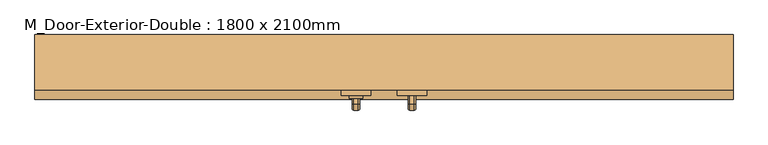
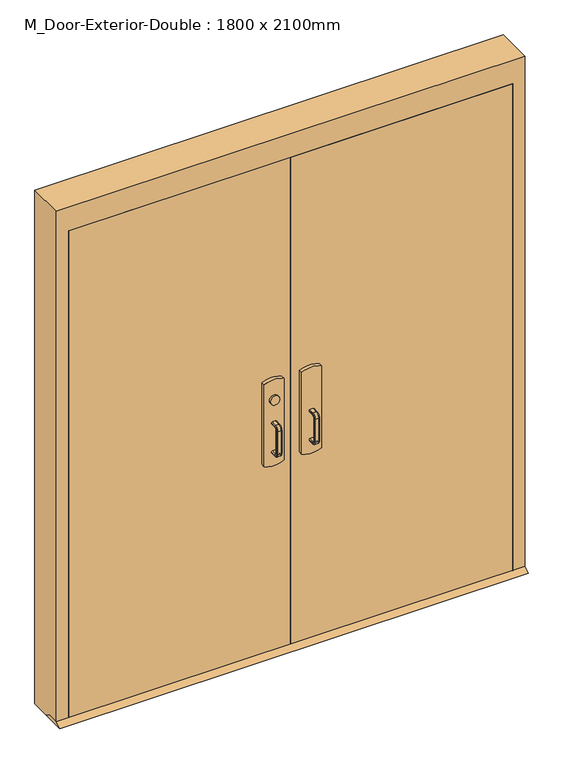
"""IFC4 building model written with IfcOpenShell, lengths in millimetres: door geometry, M_Door-Exterior-Double : 1800 x 2100mm."""

from ifc_helpers import new_model, si_unit, point, frame, frame_2d, origin, place, context, project, spatial, polyline, circle_curve, ellipse_curve, trimmed, segment, composite_curve, outline, extrude, faceted_brep, source, transform, mapped, element, save
from ifc_brep_helpers import plane_surface, cylinder_surface, revolved_surface, advanced_brep


def m_door_exterior_double_1800_x_2100mm_96612cad(model_context):
    return source(origin(), model_context, "Body", "SolidModel", [
        extrude(outline(polyline([(-566.1333333, 56.75), (-76.2, 56.75), (-76.2, 50.4), (-566.1333333, 50.4), (-566.1333333, 56.75)])), frame((0.0, 0.0, 974.6), z_axis=(0.0, 0.0, 1.0), x_axis=(1.0, 0.0, 0.0)), (0.0, 0.0, 1.0), 50.8),
        advanced_brep(
        [(-12.7, 50.4, 1025.4), (-12.7, 50.4, 974.6), (-76.2, 50.4, 974.6), (-811.1, 50.4, 974.6), (-811.1, 50.4, 1025.4), (-76.2, 50.4, 1025.4), (-811.1, 18.65, 1025.4), (-811.1, 18.65, 974.6), (-76.2, 18.65, 974.6), (-76.2, 18.65, 911.1), (-57.15, 18.65, 892.05), (-31.75, 18.65, 892.05), (-12.7, 18.65, 911.1), (-12.7, 18.65, 1088.9), (-31.75, 18.65, 1107.95), (-57.15, 18.65, 1107.95), (-76.2, 18.65, 1088.9), (-76.2, 18.65, 1025.4), (-76.2, 47.2247533, 1025.4), (-12.7, 47.2247533, 1025.4), (-12.7, 42.2145731, 1088.9), (-12.7, 42.2145731, 911.1), (-12.7, 47.2247533, 974.6), (-76.2, 47.2247533, 974.6), (-76.2, 42.2145731, 1088.9), (-76.2, 42.2145731, 911.1), (-31.75, 40.711519, 1107.95), (-57.15, 40.711519, 1107.95), (-57.15, 40.711519, 892.05), (-31.75, 40.711519, 892.05)],
        [
            (0, 1),
            (1, 2),
            (2, 3),
            (3, 4),
            (4, 5),
            (5, 0),
            (6, 7),
            (7, 8),
            (8, 9),
            (9, 10, circle_curve(frame((-57.15, 18.65, 911.1), z_axis=(0.0, -1.0, 0.0), x_axis=(-1.0, 0.0, 0.0)), 19.05)),
            (10, 11),
            (11, 12, circle_curve(frame((-31.75, 18.65, 911.1), z_axis=(0.0, -1.0, 0.0), x_axis=(-1.0, 0.0, 0.0)), 19.05)),
            (12, 13),
            (13, 14, circle_curve(frame((-31.75, 18.65, 1088.9), z_axis=(0.0, -1.0, 0.0), x_axis=(-1.0, 0.0, 0.0)), 19.05)),
            (14, 15),
            (15, 16, circle_curve(frame((-57.15, 18.65, 1088.9), z_axis=(0.0, -1.0, 0.0), x_axis=(-1.0, 0.0, 0.0)), 19.05)),
            (16, 17),
            (17, 6),
            (4, 6),
            (17, 18),
            (18, 19),
            (19, 0),
            (19, 20),
            (20, 13),
            (12, 21),
            (21, 22),
            (22, 1),
            (7, 3),
            (22, 23),
            (23, 8),
            (16, 24),
            (24, 18),
            (23, 25),
            (25, 9),
            (14, 26),
            (26, 27),
            (27, 15),
            (10, 28),
            (28, 29),
            (29, 11),
            (25, 28, ellipse_curve(frame((-57.15, 42.2145731, 911.1), z_axis=(0.0, -0.9969018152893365, 0.07865602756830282), x_axis=(0.0, 0.07865602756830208, 0.9969018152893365)), 19.1092038, 19.05)),
            (27, 24, ellipse_curve(frame((-57.15, 42.2145731, 1088.9), z_axis=(0.0, -0.9969018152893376, -0.07865602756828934), x_axis=(0.0, 0.078656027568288, -0.9969018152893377)), 19.1092038, 19.05)),
            (20, 26, ellipse_curve(frame((-31.75, 42.2145731, 1088.9), z_axis=(0.0, -0.9969018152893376, -0.07865602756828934), x_axis=(0.0, 0.078656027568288, -0.9969018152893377)), 19.1092038, 19.05)),
            (29, 21, ellipse_curve(frame((-31.75, 42.2145731, 911.1), z_axis=(0.0, -0.9969018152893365, 0.07865602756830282), x_axis=(0.0, 0.07865602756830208, 0.9969018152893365)), 19.1092038, 19.05)),
        ],
        [
            plane_surface(frame((-12.7, 50.4, 1025.4), z_axis=(0.0, 1.0, 0.0), x_axis=(1.0, 0.0, 0.0))),
            plane_surface(frame((-12.7, 18.65, 1025.4), z_axis=(0.0, -1.0, 0.0), x_axis=(-1.0, 0.0, 0.0))),
            plane_surface(frame((-811.1, 50.4, 1025.4), z_axis=(0.0, 0.0, 1.0), x_axis=(0.0, -1.0, 0.0))),
            plane_surface(frame((-12.7, 50.4, 1025.4), z_axis=(1.0, 0.0, 0.0), x_axis=(0.0, -1.0, 0.0))),
            plane_surface(frame((-12.7, 50.4, 974.6), z_axis=(0.0, 0.0, -1.0), x_axis=(0.0, -1.0, 0.0))),
            plane_surface(frame((-811.1, 50.4, 974.6), z_axis=(-1.0, 0.0, 0.0), x_axis=(0.0, -1.0, 0.0))),
            plane_surface(frame((-76.2, 47.2247533, 911.1), z_axis=(-1.0, 0.0, 0.0), x_axis=(0.0, -1.0, 0.0))),
            plane_surface(frame((-57.15, 47.2247533, 1107.95), z_axis=(0.0, 0.0, 1.0), x_axis=(0.0, -1.0, 0.0))),
            plane_surface(frame((-31.75, 47.2247533, 892.05), z_axis=(0.0, 0.0, -1.0), x_axis=(0.0, -1.0, 0.0))),
            cylinder_surface(frame((-57.15, 18.65, 911.1), z_axis=(0.0, 1.0, 0.0), x_axis=(-1.0, 0.0, 0.0)), 19.05),
            cylinder_surface(frame((-57.15, 18.65, 1088.9), z_axis=(0.0, 1.0, 0.0), x_axis=(-1.0, 0.0, 0.0)), 19.05),
            cylinder_surface(frame((-31.75, 18.65, 1088.9), z_axis=(0.0, 1.0, 0.0), x_axis=(-1.0, 0.0, 0.0)), 19.05),
            cylinder_surface(frame((-31.75, 18.65, 911.1), z_axis=(0.0, 1.0, 0.0), x_axis=(-1.0, 0.0, 0.0)), 19.05),
            plane_surface(frame((-76.2, 47.2247533, 1025.4), z_axis=(0.0, 0.9969018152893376, 0.07865602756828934), x_axis=(1.0, 0.0, 0.0))),
            plane_surface(frame((-76.2, 40.711519, 892.05), z_axis=(0.0, 0.9969018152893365, -0.07865602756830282), x_axis=(1.0, 0.0, 0.0))),
        ],
        [
            (0, [[1, 2, 3, 4, 5, 6]]),
            (1, [[7, 8, 9, 10, 11, 12, 13, 14, 15, 16, 17, 18]]),
            (2, [[19, -18, 20, 21, 22, -6, -5]]),
            (3, [[-1, -22, 23, 24, -13, 25, 26, 27]]),
            (4, [[28, -3, -2, -27, 29, 30, -8]]),
            (5, [[-4, -28, -7, -19]]),
            (6, [[-17, 31, 32, -20]]),
            (6, [[-9, -30, 33, 34]]),
            (7, [[-15, 35, 36, 37]]),
            (8, [[-11, 38, 39, 40]]),
            (9, [[-10, -34, 41, -38]]),
            (10, [[-16, -37, 42, -31]]),
            (11, [[-14, -24, 43, -35]]),
            (12, [[-12, -40, 44, -25]]),
            (13, [[-21, -32, -42, -36, -43, -23]]),
            (14, [[-26, -44, -39, -41, -33, -29]]),
        ],
    ),
        extrude(outline(polyline([(-26.35, 15.0), (18.65, 15.0), (44.05, 0.0), (-51.75, 0.0), (-26.35, 15.0)])), frame((-950.0, 0.0, 0.0), z_axis=(1.0, 0.0, 0.0), x_axis=(0.0, 1.0, 0.0)), (0.0, 0.0, 1.0), 1900.0),
        extrude(outline(polyline([(566.1333333, 56.75), (566.1333333, 50.4), (76.2, 50.4), (76.2, 56.75), (566.1333333, 56.75)])), frame((0.0, 0.0, 974.6), z_axis=(0.0, 0.0, 1.0), x_axis=(1.0, 0.0, 0.0)), (0.0, 0.0, 1.0), 50.8),
        advanced_brep(
        [(12.7, 50.4, 1025.4), (76.2, 50.4, 1025.4), (811.1, 50.4, 1025.4), (811.1, 50.4, 974.6), (76.2, 50.4, 974.6), (12.7, 50.4, 974.6), (811.1, 18.65, 1025.4), (76.2, 18.65, 1025.4), (76.2, 18.65, 1088.9), (57.15, 18.65, 1107.95), (31.75, 18.65, 1107.95), (12.7, 18.65, 1088.9), (12.7, 18.65, 911.1), (31.75, 18.65, 892.05), (57.15, 18.65, 892.05), (76.2, 18.65, 911.1), (76.2, 18.65, 974.6), (811.1, 18.65, 974.6), (12.7, 47.2247533, 1025.4), (76.2, 47.2247533, 1025.4), (12.7, 47.2247533, 974.6), (12.7, 42.2145731, 911.1), (12.7, 42.2145731, 1088.9), (76.2, 47.2247533, 974.6), (76.2, 42.2145731, 1088.9), (76.2, 42.2145731, 911.1), (57.15, 40.711519, 1107.95), (31.75, 40.711519, 1107.95), (31.75, 40.711519, 892.05), (57.15, 40.711519, 892.05)],
        [
            (0, 1),
            (1, 2),
            (2, 3),
            (3, 4),
            (4, 5),
            (5, 0),
            (6, 7),
            (7, 8),
            (8, 9, circle_curve(frame((57.15, 18.65, 1088.9), z_axis=(0.0, -1.0, 0.0), x_axis=(1.0, 0.0, 0.0)), 19.05)),
            (9, 10),
            (10, 11, circle_curve(frame((31.75, 18.65, 1088.9), z_axis=(0.0, -1.0, 0.0), x_axis=(1.0, 0.0, 0.0)), 19.05)),
            (11, 12),
            (12, 13, circle_curve(frame((31.75, 18.65, 911.1), z_axis=(0.0, -1.0, 0.0), x_axis=(1.0, 0.0, 0.0)), 19.05)),
            (13, 14),
            (14, 15, circle_curve(frame((57.15, 18.65, 911.1), z_axis=(0.0, -1.0, 0.0), x_axis=(1.0, 0.0, 0.0)), 19.05)),
            (15, 16),
            (16, 17),
            (17, 6),
            (0, 18),
            (18, 19),
            (19, 7),
            (6, 2),
            (5, 20),
            (20, 21),
            (21, 12),
            (11, 22),
            (22, 18),
            (16, 23),
            (23, 20),
            (3, 17),
            (19, 24),
            (24, 8),
            (15, 25),
            (25, 23),
            (9, 26),
            (26, 27),
            (27, 10),
            (13, 28),
            (28, 29),
            (29, 14),
            (29, 25, ellipse_curve(frame((57.15, 42.2145731, 911.1), z_axis=(0.0, -0.9969018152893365, 0.07865602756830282), x_axis=(0.0, 0.07865602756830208, 0.9969018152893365)), 19.1092038, 19.05)),
            (24, 26, ellipse_curve(frame((57.15, 42.2145731, 1088.9), z_axis=(0.0, -0.9969018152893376, -0.07865602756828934), x_axis=(0.0, 0.078656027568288, -0.9969018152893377)), 19.1092038, 19.05)),
            (27, 22, ellipse_curve(frame((31.75, 42.2145731, 1088.9), z_axis=(0.0, -0.9969018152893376, -0.07865602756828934), x_axis=(0.0, 0.078656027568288, -0.9969018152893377)), 19.1092038, 19.05)),
            (21, 28, ellipse_curve(frame((31.75, 42.2145731, 911.1), z_axis=(0.0, -0.9969018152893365, 0.07865602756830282), x_axis=(0.0, 0.07865602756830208, 0.9969018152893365)), 19.1092038, 19.05)),
        ],
        [
            plane_surface(frame((12.7, 50.4, 1025.4), z_axis=(0.0, 1.0, 0.0), x_axis=(-1.0, 0.0, 0.0))),
            plane_surface(frame((12.7, 18.65, 1025.4), z_axis=(0.0, -1.0, 0.0), x_axis=(1.0, 0.0, 0.0))),
            plane_surface(frame((811.1, 50.4, 1025.4), z_axis=(0.0, 0.0, 1.0), x_axis=(0.0, -1.0, 0.0))),
            plane_surface(frame((12.7, 50.4, 1025.4), z_axis=(-1.0, 0.0, 0.0), x_axis=(0.0, -1.0, 0.0))),
            plane_surface(frame((12.7, 50.4, 974.6), z_axis=(0.0, 0.0, -1.0), x_axis=(0.0, -1.0, 0.0))),
            plane_surface(frame((811.1, 50.4, 974.6), z_axis=(1.0, 0.0, 0.0), x_axis=(0.0, -1.0, 0.0))),
            plane_surface(frame((76.2, 47.2247533, 911.1), z_axis=(1.0, 0.0, 0.0), x_axis=(0.0, -1.0, 0.0))),
            plane_surface(frame((57.15, 47.2247533, 1107.95), z_axis=(0.0, 0.0, 1.0), x_axis=(0.0, -1.0, 0.0))),
            plane_surface(frame((31.75, 47.2247533, 892.05), z_axis=(0.0, 0.0, -1.0), x_axis=(0.0, -1.0, 0.0))),
            cylinder_surface(frame((57.15, 18.65, 911.1), z_axis=(0.0, 1.0, 0.0), x_axis=(1.0, 0.0, 0.0)), 19.05),
            cylinder_surface(frame((57.15, 18.65, 1088.9), z_axis=(0.0, 1.0, 0.0), x_axis=(1.0, 0.0, 0.0)), 19.05),
            cylinder_surface(frame((31.75, 18.65, 1088.9), z_axis=(0.0, 1.0, 0.0), x_axis=(1.0, 0.0, 0.0)), 19.05),
            cylinder_surface(frame((31.75, 18.65, 911.1), z_axis=(0.0, 1.0, 0.0), x_axis=(1.0, 0.0, 0.0)), 19.05),
            plane_surface(frame((76.2, 47.2247533, 1025.4), z_axis=(0.0, 0.9969018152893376, 0.07865602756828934), x_axis=(-1.0, 0.0, 0.0))),
            plane_surface(frame((76.2, 40.711519, 892.05), z_axis=(0.0, 0.9969018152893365, -0.07865602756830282), x_axis=(-1.0, 0.0, 0.0))),
        ],
        [
            (0, [[1, 2, 3, 4, 5, 6]]),
            (1, [[7, 8, 9, 10, 11, 12, 13, 14, 15, 16, 17, 18]]),
            (2, [[-2, -1, 19, 20, 21, -7, 22]]),
            (3, [[23, 24, 25, -12, 26, 27, -19, -6]]),
            (4, [[-17, 28, 29, -23, -5, -4, 30]]),
            (5, [[-22, -18, -30, -3]]),
            (6, [[-21, 31, 32, -8]]),
            (6, [[33, 34, -28, -16]]),
            (7, [[35, 36, 37, -10]]),
            (8, [[38, 39, 40, -14]]),
            (9, [[-40, 41, -33, -15]]),
            (10, [[-32, 42, -35, -9]]),
            (11, [[-37, 43, -26, -11]]),
            (12, [[-25, 44, -38, -13]]),
            (13, [[-27, -43, -36, -42, -31, -20]]),
            (14, [[-29, -34, -41, -39, -44, -24]]),
        ],
    ),
        advanced_brep(
        [(66.2, -39.05, 1001.190625), (69.771875, -39.05, 1004.7625), (82.628125, -39.05, 1004.7625), (86.2, -39.05, 1001.190625), (86.2, -39.05, 998.8090406), (82.6284594, -39.05, 995.2375), (69.771875, -39.05, 995.2375), (66.2, -39.05, 998.809375), (66.2, -39.05, 874.609375), (66.2, -39.05, 876.990625), (69.771875, -39.05, 880.5625), (82.6284594, -39.05, 880.5625), (86.2, -39.05, 876.9909594), (86.2, -39.05, 874.609375), (82.628125, -39.05, 871.0375), (69.771875, -39.05, 871.0375), (66.2, -64.45, 998.809375), (66.2, -75.959375, 987.3), (66.2, -75.959375, 888.5), (66.2, -64.45, 876.990625), (66.2, -64.45, 874.609375), (66.2, -78.340625, 888.5), (66.2, -78.340625, 987.3), (66.2, -64.45, 1001.190625), (69.771875, -64.45, 995.2375), (82.6284594, -64.45, 995.2375), (86.2, -64.45, 998.8090406), (86.2, -64.45, 1001.190625), (86.2, -78.340625, 987.3), (86.2, -78.340625, 888.5), (86.2, -64.45, 874.609375), (86.2, -64.45, 876.9909594), (86.2, -75.9590406, 888.5), (86.2, -75.9590406, 987.3), (82.628125, -64.45, 1004.7625), (69.771875, -64.45, 1004.7625), (69.771875, -72.3875, 987.3), (82.6284594, -72.3875, 987.3), (82.628125, -81.9125, 987.3), (69.771875, -81.9125, 987.3), (69.771875, -72.3875, 888.5), (82.6284594, -72.3875, 888.5), (82.628125, -81.9125, 888.5), (69.771875, -81.9125, 888.5), (69.771875, -64.45, 880.5625), (82.6284594, -64.45, 880.5625), (82.628125, -64.45, 871.0375), (69.771875, -64.45, 871.0375)],
        [
            (0, 1, circle_curve(frame((69.771875, -39.05, 1001.190625), z_axis=(0.0, 1.0, 0.0), x_axis=(0.0, 0.0, 1.0)), 3.571875)),
            (1, 2),
            (2, 3, circle_curve(frame((82.628125, -39.05, 1001.190625), z_axis=(0.0, 1.0, 0.0), x_axis=(0.0, 0.0, 1.0)), 3.571875)),
            (3, 4),
            (4, 5, circle_curve(frame((82.6284594, -39.05, 998.8090406), z_axis=(0.0, 1.0, 0.0), x_axis=(0.0, 0.0, 1.0)), 3.5715406)),
            (5, 6),
            (6, 7, circle_curve(frame((69.771875, -39.05, 998.809375), z_axis=(0.0, 1.0, 0.0), x_axis=(0.0, 0.0, 1.0)), 3.571875)),
            (7, 0),
            (8, 9),
            (9, 10, circle_curve(frame((69.771875, -39.05, 876.990625), z_axis=(0.0, 1.0, 0.0), x_axis=(0.0, 0.0, -1.0)), 3.571875)),
            (10, 11),
            (11, 12, circle_curve(frame((82.6284594, -39.05, 876.9909594), z_axis=(0.0, 1.0, 0.0), x_axis=(0.0, 0.0, -1.0)), 3.5715406)),
            (12, 13),
            (13, 14, circle_curve(frame((82.628125, -39.05, 874.609375), z_axis=(0.0, 1.0, 0.0), x_axis=(0.0, 0.0, -1.0)), 3.571875)),
            (14, 15),
            (15, 8, circle_curve(frame((69.771875, -39.05, 874.609375), z_axis=(0.0, 1.0, 0.0), x_axis=(0.0, 0.0, -1.0)), 3.571875)),
            (7, 16),
            (16, 17, circle_curve(frame((66.2, -64.45, 987.3), z_axis=(1.0, 0.0, 0.0), x_axis=(0.0, 0.0, 1.0)), 11.509375)),
            (17, 18),
            (18, 19, circle_curve(frame((66.2, -64.45, 888.5), z_axis=(1.0, 0.0, 0.0), x_axis=(0.0, -1.0, 0.0)), 11.509375)),
            (19, 9),
            (8, 20),
            (20, 21, circle_curve(frame((66.2, -64.45, 888.5), z_axis=(-1.0, 0.0, 0.0), x_axis=(0.0, -1.0, 0.0)), 13.890625)),
            (21, 22),
            (22, 23, circle_curve(frame((66.2, -64.45, 987.3), z_axis=(-1.0, 0.0, 0.0), x_axis=(0.0, 0.0, 1.0)), 13.890625)),
            (23, 0),
            (6, 24),
            (24, 16, circle_curve(frame((69.771875, -64.45, 998.809375), z_axis=(0.0, 1.0, 0.0), x_axis=(0.0, 0.0, 1.0)), 3.571875)),
            (5, 25),
            (25, 24),
            (4, 26),
            (26, 25, circle_curve(frame((82.6284594, -64.45, 998.8090406), z_axis=(0.0, 1.0, 0.0), x_axis=(0.0, 0.0, 1.0)), 3.5715406)),
            (3, 27),
            (27, 28, circle_curve(frame((86.2, -64.45, 987.3), z_axis=(1.0, 0.0, 0.0), x_axis=(0.0, 0.0, 1.0)), 13.890625)),
            (28, 29),
            (29, 30, circle_curve(frame((86.2, -64.45, 888.5), z_axis=(1.0, 0.0, 0.0), x_axis=(0.0, -1.0, 0.0)), 13.890625)),
            (30, 13),
            (12, 31),
            (31, 32, circle_curve(frame((86.2, -64.45, 888.5), z_axis=(-1.0, 0.0, 0.0), x_axis=(0.0, -1.0, 0.0)), 11.5090406)),
            (32, 33),
            (33, 26, circle_curve(frame((86.2, -64.45, 987.3), z_axis=(-1.0, 0.0, 0.0), x_axis=(0.0, 0.0, 1.0)), 11.5090406)),
            (2, 34),
            (34, 27, circle_curve(frame((82.628125, -64.45, 1001.190625), z_axis=(0.0, 1.0, 0.0), x_axis=(0.0, 0.0, 1.0)), 3.571875)),
            (1, 35),
            (35, 34),
            (23, 35, circle_curve(frame((69.771875, -64.45, 1001.190625), z_axis=(0.0, 1.0, 0.0), x_axis=(0.0, 0.0, 1.0)), 3.571875)),
            (36, 17, circle_curve(frame((69.771875, -75.959375, 987.3), z_axis=(0.0, 0.0, 1.0), x_axis=(0.0, -1.0, 0.0)), 3.571875)),
            (24, 36, circle_curve(frame((69.771875, -64.45, 987.3), z_axis=(1.0, 0.0, 0.0), x_axis=(0.0, 0.0, 1.0)), 7.9375)),
            (37, 36),
            (25, 37, circle_curve(frame((82.6284594, -64.45, 987.3), z_axis=(1.0, 0.0, 0.0), x_axis=(0.0, 0.0, 1.0)), 7.9375)),
            (33, 37, circle_curve(frame((82.6284594, -75.9590406, 987.3), z_axis=(0.0, 0.0, 1.0), x_axis=(0.0, -1.0, 0.0)), 3.5715406)),
            (38, 28, circle_curve(frame((82.628125, -78.340625, 987.3), z_axis=(0.0, 0.0, 1.0), x_axis=(0.0, -1.0, 0.0)), 3.571875)),
            (34, 38, circle_curve(frame((82.628125, -64.45, 987.3), z_axis=(1.0, 0.0, 0.0), x_axis=(0.0, 0.0, 1.0)), 17.4625)),
            (39, 38),
            (35, 39, circle_curve(frame((69.771875, -64.45, 987.3), z_axis=(1.0, 0.0, 0.0), x_axis=(0.0, 0.0, 1.0)), 17.4625)),
            (22, 39, circle_curve(frame((69.771875, -78.340625, 987.3), z_axis=(0.0, 0.0, 1.0), x_axis=(0.0, -1.0, 0.0)), 3.571875)),
            (36, 40),
            (40, 18, circle_curve(frame((69.771875, -75.959375, 888.5), z_axis=(0.0, 0.0, 1.0), x_axis=(0.0, -1.0, 0.0)), 3.571875)),
            (37, 41),
            (41, 40),
            (32, 41, circle_curve(frame((82.6284594, -75.9590406, 888.5), z_axis=(0.0, 0.0, 1.0), x_axis=(0.0, -1.0, 0.0)), 3.5715406)),
            (38, 42),
            (42, 29, circle_curve(frame((82.628125, -78.340625, 888.5), z_axis=(0.0, 0.0, 1.0), x_axis=(0.0, -1.0, 0.0)), 3.571875)),
            (39, 43),
            (43, 42),
            (21, 43, circle_curve(frame((69.771875, -78.340625, 888.5), z_axis=(0.0, 0.0, 1.0), x_axis=(0.0, -1.0, 0.0)), 3.571875)),
            (44, 19, circle_curve(frame((69.771875, -64.45, 876.990625), z_axis=(0.0, -1.0, 0.0), x_axis=(0.0, 0.0, -1.0)), 3.571875)),
            (40, 44, circle_curve(frame((69.771875, -64.45, 888.5), z_axis=(1.0, 0.0, 0.0), x_axis=(0.0, -1.0, 0.0)), 7.9375)),
            (45, 44),
            (41, 45, circle_curve(frame((82.6284594, -64.45, 888.5), z_axis=(1.0, 0.0, 0.0), x_axis=(0.0, -1.0, 0.0)), 7.9375)),
            (31, 45, circle_curve(frame((82.6284594, -64.45, 876.9909594), z_axis=(0.0, -1.0, 0.0), x_axis=(0.0, 0.0, -1.0)), 3.5715406)),
            (46, 30, circle_curve(frame((82.628125, -64.45, 874.609375), z_axis=(0.0, -1.0, 0.0), x_axis=(0.0, 0.0, -1.0)), 3.571875)),
            (42, 46, circle_curve(frame((82.628125, -64.45, 888.5), z_axis=(1.0, 0.0, 0.0), x_axis=(0.0, -1.0, 0.0)), 17.4625)),
            (47, 46),
            (43, 47, circle_curve(frame((69.771875, -64.45, 888.5), z_axis=(1.0, 0.0, 0.0), x_axis=(0.0, -1.0, 0.0)), 17.4625)),
            (20, 47, circle_curve(frame((69.771875, -64.45, 874.609375), z_axis=(0.0, -1.0, 0.0), x_axis=(0.0, 0.0, -1.0)), 3.571875)),
            (44, 10),
            (45, 11),
            (46, 14),
            (47, 15),
        ],
        [
            plane_surface(frame((76.2, -39.05, 1000.0), z_axis=(0.0, 1.0, 0.0), x_axis=(1.0, 0.0, 0.0))),
            plane_surface(frame((76.2, -39.05, 875.8), z_axis=(0.0, 1.0, 0.0), x_axis=(1.0, 0.0, 0.0))),
            plane_surface(frame((66.2, -39.05, 1001.190625), z_axis=(-1.0, 0.0, 0.0), x_axis=(0.0, -1.0, 0.0))),
            cylinder_surface(frame((69.771875, -39.05, 998.809375), z_axis=(0.0, 1.0, 0.0), x_axis=(0.0, 0.0, 1.0)), 3.571875),
            plane_surface(frame((69.771875, -39.05, 995.2375), z_axis=(0.0, 0.0, -1.0), x_axis=(0.0, -1.0, 0.0))),
            cylinder_surface(frame((82.6284594, -39.05, 998.8090406), z_axis=(0.0, 1.0, 0.0), x_axis=(0.0, 0.0, 1.0)), 3.5715406),
            plane_surface(frame((86.2, -39.05, 998.8090406), z_axis=(1.0, 0.0, 0.0), x_axis=(0.0, -1.0, 0.0))),
            cylinder_surface(frame((82.628125, -39.05, 1001.190625), z_axis=(0.0, 1.0, 0.0), x_axis=(0.0, 0.0, 1.0)), 3.571875),
            plane_surface(frame((82.628125, -39.05, 1004.7625), z_axis=(0.0, 0.0, 1.0), x_axis=(0.0, -1.0, 0.0))),
            cylinder_surface(frame((69.771875, -39.05, 1001.190625), z_axis=(0.0, 1.0, 0.0), x_axis=(0.0, 0.0, 1.0)), 3.571875),
            revolved_surface(trimmed(ellipse_curve(frame((69.771875, -64.45, 998.809375), z_axis=(0.0, -1.0, 0.0), x_axis=(0.0, 0.0, 1.0)), 3.571875, 3.571875), [point((66.2, -64.45, 998.809375))], [point((69.771875, -64.45, 995.2375))], True, "CARTESIAN"), (76.2, -64.45, 987.3), (-1.0, 0.0, 0.0)),
            revolved_surface(polyline([(69.771875, -64.45, 995.2375), (82.6284594, -64.45, 995.2375)]), (76.2, -64.45, 987.3), (-1.0, 0.0, 0.0)),
            revolved_surface(trimmed(ellipse_curve(frame((82.6284594, -64.45, 998.8090406), z_axis=(0.0, -1.0, 0.0), x_axis=(0.0, 0.0, 1.0)), 3.5715406, 3.5715406), [point((82.6284594, -64.45, 995.2375))], [point((86.2, -64.45, 998.8090406))], True, "CARTESIAN"), (76.2, -64.45, 987.3), (-1.0, 0.0, 0.0)),
            revolved_surface(trimmed(ellipse_curve(frame((82.628125, -64.45, 1001.190625), z_axis=(0.0, -1.0, 0.0), x_axis=(0.0, 0.0, 1.0)), 3.571875, 3.571875), [point((86.2, -64.45, 1001.190625))], [point((82.628125, -64.45, 1004.7625))], True, "CARTESIAN"), (76.2, -64.45, 987.3), (-1.0, 0.0, 0.0)),
            cylinder_surface(frame((76.2, -64.45, 987.3), z_axis=(-1.0, 0.0, 0.0), x_axis=(0.0, 0.0, 1.0)), 17.4625),
            revolved_surface(trimmed(ellipse_curve(frame((69.771875, -64.45, 1001.190625), z_axis=(0.0, -1.0, 0.0), x_axis=(0.0, 0.0, 1.0)), 3.571875, 3.571875), [point((69.771875, -64.45, 1004.7625))], [point((66.2, -64.45, 1001.190625))], True, "CARTESIAN"), (76.2, -64.45, 987.3), (-1.0, 0.0, 0.0)),
            cylinder_surface(frame((69.771875, -75.959375, 987.3), z_axis=(0.0, 0.0, 1.0), x_axis=(0.0, -1.0, 0.0)), 3.571875),
            plane_surface(frame((69.771875, -72.3875, 987.3), z_axis=(0.0, 1.0, 0.0), x_axis=(0.0, 0.0, -1.0))),
            cylinder_surface(frame((82.6284594, -75.9590406, 987.3), z_axis=(0.0, 0.0, 1.0), x_axis=(0.0, -1.0, 0.0)), 3.5715406),
            cylinder_surface(frame((82.628125, -78.340625, 987.3), z_axis=(0.0, 0.0, 1.0), x_axis=(0.0, -1.0, 0.0)), 3.571875),
            plane_surface(frame((82.628125, -81.9125, 987.3), z_axis=(0.0, -1.0, 0.0), x_axis=(0.0, 0.0, -1.0))),
            cylinder_surface(frame((69.771875, -78.340625, 987.3), z_axis=(0.0, 0.0, 1.0), x_axis=(0.0, -1.0, 0.0)), 3.571875),
            revolved_surface(trimmed(ellipse_curve(frame((69.771875, -75.959375, 888.5), z_axis=(0.0, 0.0, -1.0), x_axis=(0.0, -1.0, 0.0)), 3.571875, 3.571875), [point((66.2, -75.959375, 888.5))], [point((69.771875, -72.3875, 888.5))], True, "CARTESIAN"), (76.2, -64.45, 888.5), (-1.0, 0.0, 0.0)),
            revolved_surface(polyline([(69.771875, -72.3875, 888.5), (82.6284594, -72.3875, 888.5)]), (76.2, -64.45, 888.5), (-1.0, 0.0, 0.0)),
            revolved_surface(trimmed(ellipse_curve(frame((82.6284594, -75.9590406, 888.5), z_axis=(0.0, 0.0, -1.0), x_axis=(0.0, -1.0, 0.0)), 3.5715406, 3.5715406), [point((82.6284594, -72.3875, 888.5))], [point((86.2, -75.9590406, 888.5))], True, "CARTESIAN"), (76.2, -64.45, 888.5), (-1.0, 0.0, 0.0)),
            revolved_surface(trimmed(ellipse_curve(frame((82.628125, -78.340625, 888.5), z_axis=(0.0, 0.0, -1.0), x_axis=(0.0, -1.0, 0.0)), 3.571875, 3.571875), [point((86.2, -78.340625, 888.5))], [point((82.628125, -81.9125, 888.5))], True, "CARTESIAN"), (76.2, -64.45, 888.5), (-1.0, 0.0, 0.0)),
            cylinder_surface(frame((76.2, -64.45, 888.5), z_axis=(-1.0, 0.0, 0.0), x_axis=(0.0, -1.0, 0.0)), 17.4625),
            revolved_surface(trimmed(ellipse_curve(frame((69.771875, -78.340625, 888.5), z_axis=(0.0, 0.0, -1.0), x_axis=(0.0, -1.0, 0.0)), 3.571875, 3.571875), [point((69.771875, -81.9125, 888.5))], [point((66.2, -78.340625, 888.5))], True, "CARTESIAN"), (76.2, -64.45, 888.5), (-1.0, 0.0, 0.0)),
            cylinder_surface(frame((69.771875, -64.45, 876.990625), z_axis=(0.0, -1.0, 0.0), x_axis=(0.0, 0.0, -1.0)), 3.571875),
            plane_surface(frame((69.771875, -64.45, 880.5625), z_axis=(0.0, 0.0, 1.0), x_axis=(0.0, 1.0, 0.0))),
            cylinder_surface(frame((82.6284594, -64.45, 876.9909594), z_axis=(0.0, -1.0, 0.0), x_axis=(0.0, 0.0, -1.0)), 3.5715406),
            cylinder_surface(frame((82.628125, -64.45, 874.609375), z_axis=(0.0, -1.0, 0.0), x_axis=(0.0, 0.0, -1.0)), 3.571875),
            plane_surface(frame((82.628125, -64.45, 871.0375), z_axis=(0.0, 0.0, -1.0), x_axis=(0.0, 1.0, 0.0))),
            cylinder_surface(frame((69.771875, -64.45, 874.609375), z_axis=(0.0, -1.0, 0.0), x_axis=(0.0, 0.0, -1.0)), 3.571875),
        ],
        [
            (0, [[1, 2, 3, 4, 5, 6, 7, 8]]),
            (1, [[9, 10, 11, 12, 13, 14, 15, 16]]),
            (2, [[17, 18, 19, 20, 21, -9, 22, 23, 24, 25, 26, -8]]),
            (3, [[27, 28, -17, -7]]),
            (4, [[29, 30, -27, -6]]),
            (5, [[31, 32, -29, -5]]),
            (6, [[33, 34, 35, 36, 37, -13, 38, 39, 40, 41, -31, -4]]),
            (7, [[42, 43, -33, -3]]),
            (8, [[44, 45, -42, -2]]),
            (9, [[-26, 46, -44, -1]]),
            (10, [[47, -18, -28, 48]]),
            (11, [[49, -48, -30, 50]]),
            (12, [[51, -50, -32, -41]]),
            (13, [[52, -34, -43, 53]]),
            (14, [[54, -53, -45, 55]]),
            (15, [[56, -55, -46, -25]]),
            (16, [[57, 58, -19, -47]]),
            (17, [[59, 60, -57, -49]]),
            (18, [[-40, 61, -59, -51]]),
            (19, [[62, 63, -35, -52]]),
            (20, [[64, 65, -62, -54]]),
            (21, [[-24, 66, -64, -56]]),
            (22, [[67, -20, -58, 68]]),
            (23, [[69, -68, -60, 70]]),
            (24, [[71, -70, -61, -39]]),
            (25, [[72, -36, -63, 73]]),
            (26, [[74, -73, -65, 75]]),
            (27, [[76, -75, -66, -23]]),
            (28, [[77, -10, -21, -67]]),
            (29, [[78, -11, -77, -69]]),
            (30, [[-38, -12, -78, -71]]),
            (31, [[79, -14, -37, -72]]),
            (32, [[80, -15, -79, -74]]),
            (33, [[-22, -16, -80, -76]]),
        ],
    ),
        extrude(outline(composite_curve([segment(trimmed(circle_curve(frame_2d((1094.2338574, 76.2)), 90.1286291), [point((1175.0, 116.2))], [point((1175.0, 36.2))], False, "CARTESIAN"), True, "CONTINUOUS"), segment(polyline([(1175.0, 36.2), (825.0, 36.2)]), True, "CONTINUOUS"), segment(trimmed(circle_curve(frame_2d((905.7661426, 76.2)), 90.1286291), [point((825.0, 36.2))], [point((825.0, 116.2))], False, "CARTESIAN"), True, "CONTINUOUS"), segment(polyline([(825.0, 116.2), (1175.0, 116.2)]), True, "CONTINUOUS")], self_intersect=False)), frame((0.0, -41.35, 0.0), z_axis=(0.0, 1.0, 0.0), x_axis=(0.0, 0.0, 1.0)), (0.0, 0.0, 1.0), 15.0),
        advanced_brep(
        [(-86.2, -39.05, 1001.190625), (-82.628125, -39.05, 1004.7625), (-69.771875, -39.05, 1004.7625), (-66.2, -39.05, 1001.190625), (-66.2, -39.05, 998.8090406), (-69.7715406, -39.05, 995.2375), (-82.628125, -39.05, 995.2375), (-86.2, -39.05, 998.809375), (-86.2, -39.05, 874.609375), (-86.2, -39.05, 876.990625), (-82.628125, -39.05, 880.5625), (-69.7715406, -39.05, 880.5625), (-66.2, -39.05, 876.9909594), (-66.2, -39.05, 874.609375), (-69.771875, -39.05, 871.0375), (-82.628125, -39.05, 871.0375), (-86.2, -64.45, 998.809375), (-86.2, -75.959375, 987.3), (-86.2, -75.959375, 888.5), (-86.2, -64.45, 876.990625), (-86.2, -64.45, 874.609375), (-86.2, -78.340625, 888.5), (-86.2, -78.340625, 987.3), (-86.2, -64.45, 1001.190625), (-82.628125, -64.45, 995.2375), (-69.7715406, -64.45, 995.2375), (-66.2, -64.45, 998.8090406), (-66.2, -64.45, 1001.190625), (-66.2, -78.340625, 987.3), (-66.2, -78.340625, 888.5), (-66.2, -64.45, 874.609375), (-66.2, -64.45, 876.9909594), (-66.2, -75.9590406, 888.5), (-66.2, -75.9590406, 987.3), (-69.771875, -64.45, 1004.7625), (-82.628125, -64.45, 1004.7625), (-82.628125, -72.3875, 987.3), (-69.7715406, -72.3875, 987.3), (-69.771875, -81.9125, 987.3), (-82.628125, -81.9125, 987.3), (-82.628125, -72.3875, 888.5), (-69.7715406, -72.3875, 888.5), (-69.771875, -81.9125, 888.5), (-82.628125, -81.9125, 888.5), (-82.628125, -64.45, 880.5625), (-69.7715406, -64.45, 880.5625), (-69.771875, -64.45, 871.0375), (-82.628125, -64.45, 871.0375)],
        [
            (0, 1, circle_curve(frame((-82.628125, -39.05, 1001.190625), z_axis=(0.0, 1.0, 0.0), x_axis=(0.0, 0.0, 1.0)), 3.571875)),
            (1, 2),
            (2, 3, circle_curve(frame((-69.771875, -39.05, 1001.190625), z_axis=(0.0, 1.0, 0.0), x_axis=(0.0, 0.0, 1.0)), 3.571875)),
            (3, 4),
            (4, 5, circle_curve(frame((-69.7715406, -39.05, 998.8090406), z_axis=(0.0, 1.0, 0.0), x_axis=(0.0, 0.0, 1.0)), 3.5715406)),
            (5, 6),
            (6, 7, circle_curve(frame((-82.628125, -39.05, 998.809375), z_axis=(0.0, 1.0, 0.0), x_axis=(0.0, 0.0, 1.0)), 3.571875)),
            (7, 0),
            (8, 9),
            (9, 10, circle_curve(frame((-82.628125, -39.05, 876.990625), z_axis=(0.0, 1.0, 0.0), x_axis=(0.0, 0.0, -1.0)), 3.571875)),
            (10, 11),
            (11, 12, circle_curve(frame((-69.7715406, -39.05, 876.9909594), z_axis=(0.0, 1.0, 0.0), x_axis=(0.0, 0.0, -1.0)), 3.5715406)),
            (12, 13),
            (13, 14, circle_curve(frame((-69.771875, -39.05, 874.609375), z_axis=(0.0, 1.0, 0.0), x_axis=(0.0, 0.0, -1.0)), 3.571875)),
            (14, 15),
            (15, 8, circle_curve(frame((-82.628125, -39.05, 874.609375), z_axis=(0.0, 1.0, 0.0), x_axis=(0.0, 0.0, -1.0)), 3.571875)),
            (7, 16),
            (16, 17, circle_curve(frame((-86.2, -64.45, 987.3), z_axis=(1.0, 0.0, 0.0), x_axis=(0.0, 0.0, 1.0)), 11.509375)),
            (17, 18),
            (18, 19, circle_curve(frame((-86.2, -64.45, 888.5), z_axis=(1.0, 0.0, 0.0), x_axis=(0.0, -1.0, 0.0)), 11.509375)),
            (19, 9),
            (8, 20),
            (20, 21, circle_curve(frame((-86.2, -64.45, 888.5), z_axis=(-1.0, 0.0, 0.0), x_axis=(0.0, -1.0, 0.0)), 13.890625)),
            (21, 22),
            (22, 23, circle_curve(frame((-86.2, -64.45, 987.3), z_axis=(-1.0, 0.0, 0.0), x_axis=(0.0, 0.0, 1.0)), 13.890625)),
            (23, 0),
            (6, 24),
            (24, 16, circle_curve(frame((-82.628125, -64.45, 998.809375), z_axis=(0.0, 1.0, 0.0), x_axis=(0.0, 0.0, 1.0)), 3.571875)),
            (5, 25),
            (25, 24),
            (4, 26),
            (26, 25, circle_curve(frame((-69.7715406, -64.45, 998.8090406), z_axis=(0.0, 1.0, 0.0), x_axis=(0.0, 0.0, 1.0)), 3.5715406)),
            (3, 27),
            (27, 28, circle_curve(frame((-66.2, -64.45, 987.3), z_axis=(1.0, 0.0, 0.0), x_axis=(0.0, 0.0, 1.0)), 13.890625)),
            (28, 29),
            (29, 30, circle_curve(frame((-66.2, -64.45, 888.5), z_axis=(1.0, 0.0, 0.0), x_axis=(0.0, -1.0, 0.0)), 13.890625)),
            (30, 13),
            (12, 31),
            (31, 32, circle_curve(frame((-66.2, -64.45, 888.5), z_axis=(-1.0, 0.0, 0.0), x_axis=(0.0, -1.0, 0.0)), 11.5090406)),
            (32, 33),
            (33, 26, circle_curve(frame((-66.2, -64.45, 987.3), z_axis=(-1.0, 0.0, 0.0), x_axis=(0.0, 0.0, 1.0)), 11.5090406)),
            (2, 34),
            (34, 27, circle_curve(frame((-69.771875, -64.45, 1001.190625), z_axis=(0.0, 1.0, 0.0), x_axis=(0.0, 0.0, 1.0)), 3.571875)),
            (1, 35),
            (35, 34),
            (23, 35, circle_curve(frame((-82.628125, -64.45, 1001.190625), z_axis=(0.0, 1.0, 0.0), x_axis=(0.0, 0.0, 1.0)), 3.571875)),
            (36, 17, circle_curve(frame((-82.628125, -75.959375, 987.3), z_axis=(0.0, 0.0, 1.0), x_axis=(0.0, -1.0, 0.0)), 3.571875)),
            (24, 36, circle_curve(frame((-82.628125, -64.45, 987.3), z_axis=(1.0, 0.0, 0.0), x_axis=(0.0, 0.0, 1.0)), 7.9375)),
            (37, 36),
            (25, 37, circle_curve(frame((-69.7715406, -64.45, 987.3), z_axis=(1.0, 0.0, 0.0), x_axis=(0.0, 0.0, 1.0)), 7.9375)),
            (33, 37, circle_curve(frame((-69.7715406, -75.9590406, 987.3), z_axis=(0.0, 0.0, 1.0), x_axis=(0.0, -1.0, 0.0)), 3.5715406)),
            (38, 28, circle_curve(frame((-69.771875, -78.340625, 987.3), z_axis=(0.0, 0.0, 1.0), x_axis=(0.0, -1.0, 0.0)), 3.571875)),
            (34, 38, circle_curve(frame((-69.771875, -64.45, 987.3), z_axis=(1.0, 0.0, 0.0), x_axis=(0.0, 0.0, 1.0)), 17.4625)),
            (39, 38),
            (35, 39, circle_curve(frame((-82.628125, -64.45, 987.3), z_axis=(1.0, 0.0, 0.0), x_axis=(0.0, 0.0, 1.0)), 17.4625)),
            (22, 39, circle_curve(frame((-82.628125, -78.340625, 987.3), z_axis=(0.0, 0.0, 1.0), x_axis=(0.0, -1.0, 0.0)), 3.571875)),
            (36, 40),
            (40, 18, circle_curve(frame((-82.628125, -75.959375, 888.5), z_axis=(0.0, 0.0, 1.0), x_axis=(0.0, -1.0, 0.0)), 3.571875)),
            (37, 41),
            (41, 40),
            (32, 41, circle_curve(frame((-69.7715406, -75.9590406, 888.5), z_axis=(0.0, 0.0, 1.0), x_axis=(0.0, -1.0, 0.0)), 3.5715406)),
            (38, 42),
            (42, 29, circle_curve(frame((-69.771875, -78.340625, 888.5), z_axis=(0.0, 0.0, 1.0), x_axis=(0.0, -1.0, 0.0)), 3.571875)),
            (39, 43),
            (43, 42),
            (21, 43, circle_curve(frame((-82.628125, -78.340625, 888.5), z_axis=(0.0, 0.0, 1.0), x_axis=(0.0, -1.0, 0.0)), 3.571875)),
            (44, 19, circle_curve(frame((-82.628125, -64.45, 876.990625), z_axis=(0.0, -1.0, 0.0), x_axis=(0.0, 0.0, -1.0)), 3.571875)),
            (40, 44, circle_curve(frame((-82.628125, -64.45, 888.5), z_axis=(1.0, 0.0, 0.0), x_axis=(0.0, -1.0, 0.0)), 7.9375)),
            (45, 44),
            (41, 45, circle_curve(frame((-69.7715406, -64.45, 888.5), z_axis=(1.0, 0.0, 0.0), x_axis=(0.0, -1.0, 0.0)), 7.9375)),
            (31, 45, circle_curve(frame((-69.7715406, -64.45, 876.9909594), z_axis=(0.0, -1.0, 0.0), x_axis=(0.0, 0.0, -1.0)), 3.5715406)),
            (46, 30, circle_curve(frame((-69.771875, -64.45, 874.609375), z_axis=(0.0, -1.0, 0.0), x_axis=(0.0, 0.0, -1.0)), 3.571875)),
            (42, 46, circle_curve(frame((-69.771875, -64.45, 888.5), z_axis=(1.0, 0.0, 0.0), x_axis=(0.0, -1.0, 0.0)), 17.4625)),
            (47, 46),
            (43, 47, circle_curve(frame((-82.628125, -64.45, 888.5), z_axis=(1.0, 0.0, 0.0), x_axis=(0.0, -1.0, 0.0)), 17.4625)),
            (20, 47, circle_curve(frame((-82.628125, -64.45, 874.609375), z_axis=(0.0, -1.0, 0.0), x_axis=(0.0, 0.0, -1.0)), 3.571875)),
            (44, 10),
            (45, 11),
            (46, 14),
            (47, 15),
        ],
        [
            plane_surface(frame((-76.2, -39.05, 1000.0), z_axis=(0.0, 1.0, 0.0), x_axis=(1.0, 0.0, 0.0))),
            plane_surface(frame((-76.2, -39.05, 875.8), z_axis=(0.0, 1.0, 0.0), x_axis=(1.0, 0.0, 0.0))),
            plane_surface(frame((-86.2, -39.05, 1001.190625), z_axis=(-1.0, 0.0, 0.0), x_axis=(0.0, -1.0, 0.0))),
            cylinder_surface(frame((-82.628125, -39.05, 998.809375), z_axis=(0.0, 1.0, 0.0), x_axis=(0.0, 0.0, 1.0)), 3.571875),
            plane_surface(frame((-82.628125, -39.05, 995.2375), z_axis=(0.0, 0.0, -1.0), x_axis=(0.0, -1.0, 0.0))),
            cylinder_surface(frame((-69.7715406, -39.05, 998.8090406), z_axis=(0.0, 1.0, 0.0), x_axis=(0.0, 0.0, 1.0)), 3.5715406),
            plane_surface(frame((-66.2, -39.05, 998.8090406), z_axis=(1.0, 0.0, 0.0), x_axis=(0.0, -1.0, 0.0))),
            cylinder_surface(frame((-69.771875, -39.05, 1001.190625), z_axis=(0.0, 1.0, 0.0), x_axis=(0.0, 0.0, 1.0)), 3.571875),
            plane_surface(frame((-69.771875, -39.05, 1004.7625), z_axis=(0.0, 0.0, 1.0), x_axis=(0.0, -1.0, 0.0))),
            cylinder_surface(frame((-82.628125, -39.05, 1001.190625), z_axis=(0.0, 1.0, 0.0), x_axis=(0.0, 0.0, 1.0)), 3.571875),
            revolved_surface(trimmed(ellipse_curve(frame((-82.628125, -64.45, 998.809375), z_axis=(0.0, -1.0, 0.0), x_axis=(0.0, 0.0, 1.0)), 3.571875, 3.571875), [point((-86.2, -64.45, 998.809375))], [point((-82.628125, -64.45, 995.2375))], True, "CARTESIAN"), (-76.2, -64.45, 987.3), (-1.0, 0.0, 0.0)),
            revolved_surface(polyline([(-82.628125, -64.45, 995.2375), (-69.7715406, -64.45, 995.2375)]), (-76.2, -64.45, 987.3), (-1.0, 0.0, 0.0)),
            revolved_surface(trimmed(ellipse_curve(frame((-69.7715406, -64.45, 998.8090406), z_axis=(0.0, -1.0, 0.0), x_axis=(0.0, 0.0, 1.0)), 3.5715406, 3.5715406), [point((-69.7715406, -64.45, 995.2375))], [point((-66.2, -64.45, 998.8090406))], True, "CARTESIAN"), (-76.2, -64.45, 987.3), (-1.0, 0.0, 0.0)),
            revolved_surface(trimmed(ellipse_curve(frame((-69.771875, -64.45, 1001.190625), z_axis=(0.0, -1.0, 0.0), x_axis=(0.0, 0.0, 1.0)), 3.571875, 3.571875), [point((-66.2, -64.45, 1001.190625))], [point((-69.771875, -64.45, 1004.7625))], True, "CARTESIAN"), (-76.2, -64.45, 987.3), (-1.0, 0.0, 0.0)),
            cylinder_surface(frame((-76.2, -64.45, 987.3), z_axis=(-1.0, 0.0, 0.0), x_axis=(0.0, 0.0, 1.0)), 17.4625),
            revolved_surface(trimmed(ellipse_curve(frame((-82.628125, -64.45, 1001.190625), z_axis=(0.0, -1.0, 0.0), x_axis=(0.0, 0.0, 1.0)), 3.571875, 3.571875), [point((-82.628125, -64.45, 1004.7625))], [point((-86.2, -64.45, 1001.190625))], True, "CARTESIAN"), (-76.2, -64.45, 987.3), (-1.0, 0.0, 0.0)),
            cylinder_surface(frame((-82.628125, -75.959375, 987.3), z_axis=(0.0, 0.0, 1.0), x_axis=(0.0, -1.0, 0.0)), 3.571875),
            plane_surface(frame((-82.628125, -72.3875, 987.3), z_axis=(0.0, 1.0, 0.0), x_axis=(0.0, 0.0, -1.0))),
            cylinder_surface(frame((-69.7715406, -75.9590406, 987.3), z_axis=(0.0, 0.0, 1.0), x_axis=(0.0, -1.0, 0.0)), 3.5715406),
            cylinder_surface(frame((-69.771875, -78.340625, 987.3), z_axis=(0.0, 0.0, 1.0), x_axis=(0.0, -1.0, 0.0)), 3.571875),
            plane_surface(frame((-69.771875, -81.9125, 987.3), z_axis=(0.0, -1.0, 0.0), x_axis=(0.0, 0.0, -1.0))),
            cylinder_surface(frame((-82.628125, -78.340625, 987.3), z_axis=(0.0, 0.0, 1.0), x_axis=(0.0, -1.0, 0.0)), 3.571875),
            revolved_surface(trimmed(ellipse_curve(frame((-82.628125, -75.959375, 888.5), z_axis=(0.0, 0.0, -1.0), x_axis=(0.0, -1.0, 0.0)), 3.571875, 3.571875), [point((-86.2, -75.959375, 888.5))], [point((-82.628125, -72.3875, 888.5))], True, "CARTESIAN"), (-76.2, -64.45, 888.5), (-1.0, 0.0, 0.0)),
            revolved_surface(polyline([(-82.628125, -72.3875, 888.5), (-69.7715406, -72.3875, 888.5)]), (-76.2, -64.45, 888.5), (-1.0, 0.0, 0.0)),
            revolved_surface(trimmed(ellipse_curve(frame((-69.7715406, -75.9590406, 888.5), z_axis=(0.0, 0.0, -1.0), x_axis=(0.0, -1.0, 0.0)), 3.5715406, 3.5715406), [point((-69.7715406, -72.3875, 888.5))], [point((-66.2, -75.9590406, 888.5))], True, "CARTESIAN"), (-76.2, -64.45, 888.5), (-1.0, 0.0, 0.0)),
            revolved_surface(trimmed(ellipse_curve(frame((-69.771875, -78.340625, 888.5), z_axis=(0.0, 0.0, -1.0), x_axis=(0.0, -1.0, 0.0)), 3.571875, 3.571875), [point((-66.2, -78.340625, 888.5))], [point((-69.771875, -81.9125, 888.5))], True, "CARTESIAN"), (-76.2, -64.45, 888.5), (-1.0, 0.0, 0.0)),
            cylinder_surface(frame((-76.2, -64.45, 888.5), z_axis=(-1.0, 0.0, 0.0), x_axis=(0.0, -1.0, 0.0)), 17.4625),
            revolved_surface(trimmed(ellipse_curve(frame((-82.628125, -78.340625, 888.5), z_axis=(0.0, 0.0, -1.0), x_axis=(0.0, -1.0, 0.0)), 3.571875, 3.571875), [point((-82.628125, -81.9125, 888.5))], [point((-86.2, -78.340625, 888.5))], True, "CARTESIAN"), (-76.2, -64.45, 888.5), (-1.0, 0.0, 0.0)),
            cylinder_surface(frame((-82.628125, -64.45, 876.990625), z_axis=(0.0, -1.0, 0.0), x_axis=(0.0, 0.0, -1.0)), 3.571875),
            plane_surface(frame((-82.628125, -64.45, 880.5625), z_axis=(0.0, 0.0, 1.0), x_axis=(0.0, 1.0, 0.0))),
            cylinder_surface(frame((-69.7715406, -64.45, 876.9909594), z_axis=(0.0, -1.0, 0.0), x_axis=(0.0, 0.0, -1.0)), 3.5715406),
            cylinder_surface(frame((-69.771875, -64.45, 874.609375), z_axis=(0.0, -1.0, 0.0), x_axis=(0.0, 0.0, -1.0)), 3.571875),
            plane_surface(frame((-69.771875, -64.45, 871.0375), z_axis=(0.0, 0.0, -1.0), x_axis=(0.0, 1.0, 0.0))),
            cylinder_surface(frame((-82.628125, -64.45, 874.609375), z_axis=(0.0, -1.0, 0.0), x_axis=(0.0, 0.0, -1.0)), 3.571875),
        ],
        [
            (0, [[1, 2, 3, 4, 5, 6, 7, 8]]),
            (1, [[9, 10, 11, 12, 13, 14, 15, 16]]),
            (2, [[17, 18, 19, 20, 21, -9, 22, 23, 24, 25, 26, -8]]),
            (3, [[27, 28, -17, -7]]),
            (4, [[29, 30, -27, -6]]),
            (5, [[31, 32, -29, -5]]),
            (6, [[33, 34, 35, 36, 37, -13, 38, 39, 40, 41, -31, -4]]),
            (7, [[42, 43, -33, -3]]),
            (8, [[44, 45, -42, -2]]),
            (9, [[-26, 46, -44, -1]]),
            (10, [[47, -18, -28, 48]]),
            (11, [[49, -48, -30, 50]]),
            (12, [[51, -50, -32, -41]]),
            (13, [[52, -34, -43, 53]]),
            (14, [[54, -53, -45, 55]]),
            (15, [[56, -55, -46, -25]]),
            (16, [[57, 58, -19, -47]]),
            (17, [[59, 60, -57, -49]]),
            (18, [[-40, 61, -59, -51]]),
            (19, [[62, 63, -35, -52]]),
            (20, [[64, 65, -62, -54]]),
            (21, [[-24, 66, -64, -56]]),
            (22, [[67, -20, -58, 68]]),
            (23, [[69, -68, -60, 70]]),
            (24, [[71, -70, -61, -39]]),
            (25, [[72, -36, -63, 73]]),
            (26, [[74, -73, -65, 75]]),
            (27, [[76, -75, -66, -23]]),
            (28, [[77, -10, -21, -67]]),
            (29, [[78, -11, -77, -69]]),
            (30, [[-38, -12, -78, -71]]),
            (31, [[79, -14, -37, -72]]),
            (32, [[80, -15, -79, -74]]),
            (33, [[-22, -16, -80, -76]]),
        ],
    ),
        extrude(outline(composite_curve([segment(trimmed(circle_curve(frame_2d((1098.8, -76.2)), 19.0), [point((1098.8, -95.2))], [point((1098.8, -57.2))], False, "CARTESIAN"), True, "CONTINUOUS"), segment(trimmed(circle_curve(frame_2d((1098.8, -76.2)), 19.0), [point((1098.8, -57.2))], [point((1098.8, -95.2))], False, "CARTESIAN"), True, "CONTINUOUS")], self_intersect=False)), frame((0.0, -50.08125, 0.0), z_axis=(0.0, 1.0, 0.0), x_axis=(0.0, 0.0, 1.0)), (0.0, 0.0, 1.0), 8.73125),
        extrude(outline(composite_curve([segment(trimmed(circle_curve(frame_2d((1094.2338574, -76.2)), 90.1286291), [point((1175.0, -36.2))], [point((1175.0, -116.2))], False, "CARTESIAN"), True, "CONTINUOUS"), segment(polyline([(1175.0, -116.2), (825.0, -116.2)]), True, "CONTINUOUS"), segment(trimmed(circle_curve(frame_2d((905.7661426, -76.2)), 90.1286291), [point((825.0, -116.2))], [point((825.0, -36.2))], False, "CARTESIAN"), True, "CONTINUOUS"), segment(polyline([(825.0, -36.2), (1175.0, -36.2)]), True, "CONTINUOUS")], self_intersect=False)), frame((0.0, -41.35, 0.0), z_axis=(0.0, 1.0, 0.0), x_axis=(0.0, 0.0, 1.0)), (0.0, 0.0, 1.0), 15.0),
        faceted_brep([(900.0, 23.4125, 0.0), (884.125, 23.4125, 0.0), (884.125, 74.4375, 0.0), (900.0, 74.4375, 0.0), (900.0, 123.65, 0.0), (950.0, 123.65, 0.0), (950.0, -26.35, 0.0), (900.0, -26.35, 0.0), (900.0, -26.35, 2100.0), (900.0, 23.4125, 2100.0), (950.0, -26.35, 2200.0), (-950.0, -26.35, 2200.0), (-950.0, -26.35, 0.0), (-900.0, -26.35, 0.0), (-900.0, -26.35, 2100.0), (950.0, 123.65, 2200.0), (900.0, 123.65, 2100.0), (-900.0, 123.65, 2100.0), (-900.0, 123.65, 0.0), (-950.0, 123.65, 0.0), (-950.0, 123.65, 2200.0), (900.0, 74.4375, 2100.0), (884.125, 74.4375, 2084.125), (-884.125, 74.4375, 2084.125), (-884.125, 74.4375, 0.0), (-900.0, 74.4375, 0.0), (-900.0, 74.4375, 2100.0), (884.125, 23.4125, 2084.125), (-900.0, 23.4125, 2100.0), (-900.0, 23.4125, 0.0), (-884.125, 23.4125, 0.0), (-884.125, 23.4125, 2084.125)], [[[0, 1, 2, 3, 4, 5, 6, 7]], [[7, 8, 9, 0]], [[6, 10, 11, 12, 13, 14, 8, 7]], [[5, 15, 10, 6]], [[4, 16, 17, 18, 19, 20, 15, 5]], [[3, 21, 16, 4]], [[2, 22, 23, 24, 25, 26, 21, 3]], [[1, 27, 22, 2]], [[0, 9, 28, 29, 30, 31, 27, 1]], [[8, 14, 28, 9]], [[16, 21, 26, 17]], [[22, 27, 31, 23]], [[12, 19, 18, 25, 24, 30, 29, 13]], [[13, 29, 28, 14]], [[11, 20, 19, 12]], [[17, 26, 25, 18]], [[23, 31, 30, 24]], [[15, 20, 11, 10]]]),
        extrude(outline(polyline([(900.0, 18.65), (900.0, -26.35), (1.5875, -26.35), (1.5875, 18.65), (900.0, 18.65)])), frame((0.0, 0.0, 15.0), z_axis=(0.0, 0.0, 1.0), x_axis=(1.0, 0.0, 0.0)), (0.0, 0.0, 1.0), 2085.0),
        extrude(outline(polyline([(-1.5875, 18.65), (-1.5875, -26.35), (-900.0, -26.35), (-900.0, 18.65), (-1.5875, 18.65)])), frame((0.0, 0.0, 15.0), z_axis=(0.0, 0.0, 1.0), x_axis=(1.0, 0.0, 0.0)), (0.0, 0.0, 1.0), 2085.0),
    ])


if __name__ == "__main__":
    model = new_model("IFC4")
    model_context = context("Model", 3, world=origin())
    ifc_project = project(units=[si_unit("LENGTHUNIT", "METRE", prefix="MILLI")], contexts=[model_context])
    site = spatial("IfcSite", under=ifc_project)
    building = spatial("IfcBuilding", under=site)
    placement = place(None, origin())
    m_door_exterior_double_1800_x_2100mm_shape = m_door_exterior_double_1800_x_2100mm_96612cad(model_context)
    element("IfcDoor", 1, ObjectType="M_Door-Exterior-Double : 1800 x 2100mm", at=placement, inside=building, context=model_context, shape_type="MappedRepresentation", body=[
        mapped(m_door_exterior_double_1800_x_2100mm_shape, transform((0.0, 0.0, 0.0), x_axis=(1.0, 0.0, 0.0), y_axis=(0.0, 1.0, 0.0), z_axis=(0.0, 0.0, 1.0))),
    ])
    save(model, "model.ifc")
